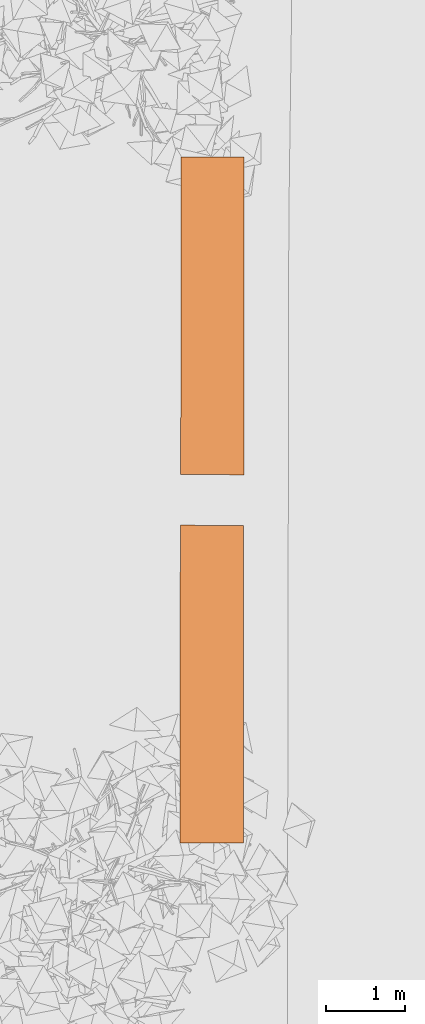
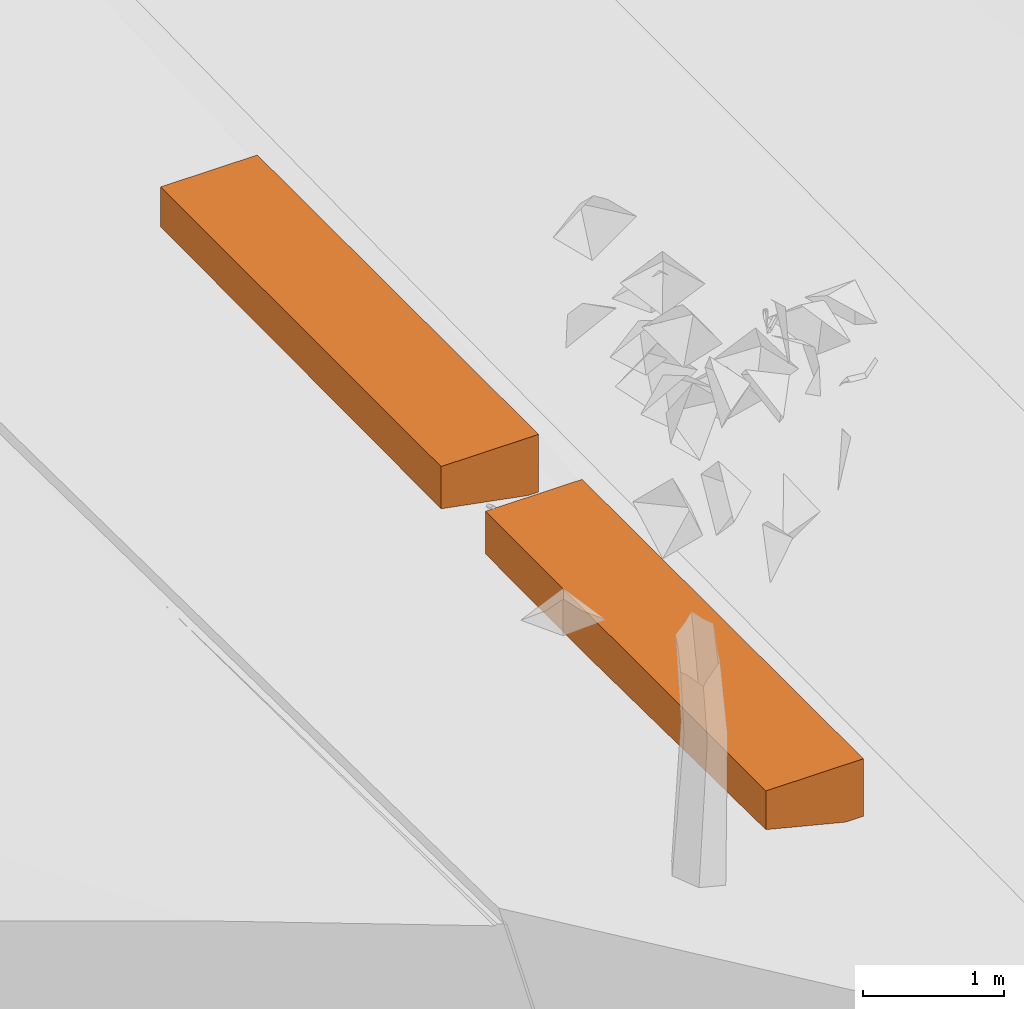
# One storey, part 62 of 69: 2 proxies.
"""IFC2X3 building model written with IfcOpenShell, lengths in millimetres."""

from ifc_helpers import new_model, entity, si_unit, converted_unit, derived_unit, money_unit, direction, frame, origin_with_axes, place, context, subcontext, project, spatial, faceted_brep, material, type_object, element, save


model = new_model("IFC2X3")

# Units and contexts
model_context = context("Model", 3, precision=0.01, world=origin_with_axes(), true_north=direction((0.0, 1.0)))
body_context = subcontext(model_context, "Body", "Model", "MODEL_VIEW")
ifc_project = project(units=[si_unit("LENGTHUNIT", "METRE", prefix="MILLI"), si_unit("AREAUNIT", "SQUARE_METRE"), si_unit("VOLUMEUNIT", "CUBIC_METRE"), converted_unit("PLANEANGLEUNIT", "DEGREE", entity("IfcPlaneAngleMeasure", 0.0174532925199), si_unit("PLANEANGLEUNIT", "RADIAN"), dimensions=[0, 0, 0, 0, 0, 0, 0]), si_unit("SOLIDANGLEUNIT", "STERADIAN"), money_unit("EUR"), converted_unit("TIMEUNIT", "Year", entity("IfcTimeMeasure", 31556926.0), si_unit("TIMEUNIT", "SECOND"), dimensions=[0, 0, 1, 0, 0, 0, 0]), si_unit("MASSUNIT", "GRAM", prefix="KILO"), si_unit("THERMODYNAMICTEMPERATUREUNIT", "DEGREE_CELSIUS"), si_unit("LUMINOUSINTENSITYUNIT", "LUMEN"), si_unit("ENERGYUNIT", "JOULE", prefix="MEGA"), derived_unit("THERMALCONDUCTANCEUNIT", [(si_unit("POWERUNIT", "WATT"), 1), (si_unit("LENGTHUNIT", "METRE"), -1), (si_unit("THERMODYNAMICTEMPERATUREUNIT", "KELVIN"), -1)]), derived_unit("SPECIFICHEATCAPACITYUNIT", [(si_unit("ENERGYUNIT", "JOULE"), 1), (si_unit("MASSUNIT", "GRAM", prefix="KILO"), -1), (si_unit("THERMODYNAMICTEMPERATUREUNIT", "KELVIN"), -1)]), derived_unit("MASSDENSITYUNIT", [(si_unit("MASSUNIT", "GRAM", prefix="KILO"), 1), (si_unit("VOLUMEUNIT", "CUBIC_METRE"), -1)])], contexts=[model_context])

# Site, building, storey
site_placement = place(None, origin_with_axes())
site = spatial("IfcSite", under=ifc_project, at=site_placement, Name="Puškini 31, Narva", CompositionType="ELEMENT")
building_placement = place(site_placement, origin_with_axes())
building = spatial("IfcBuilding", under=site, at=building_placement, Name="Narva Riigigümnaasium", CompositionType="ELEMENT")
storey_placement = place(building_placement, origin_with_axes())
storey = spatial("IfcBuildingStorey", under=building, at=storey_placement, Name="1.korrus 0.00", CompositionType="ELEMENT", Elevation=0.0)

# Proxies
ifc_material = material(Name="Puit - Põrand")
building_element_proxy_type = type_object("IfcBuildingElementProxyType", Name="Puit - Põrand 500", PredefinedType="NOTDEFINED")
proxy_1_placement = place(storey_placement, frame((23048.161602, 241008.899282, -2748.05560688), z_axis=(0.0, 0.0, 1.0), x_axis=(1.0, 0.0, 0.0)))
element("IfcBuildingElementProxy", 1, at=proxy_1_placement, inside=storey, type_object=building_element_proxy_type, material=ifc_material, Name="Pink-2", context=body_context, shape_type="Brep", body=[
    faceted_brep([(793.829033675, -939.871611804, -500.0), (793.829033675, -434.89500589, -497.265314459), (793.829033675, -1.23400232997, -494.459482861), (793.829033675, -1.23400232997, 0.0), (793.829033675, -4001.22924384, 0.0), (793.829033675, -4001.22924384, -500.0), (705.324474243, -4001.09272515, -500.0), (-6.17001402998, -3999.99524164, -366.722727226), (-1.72341688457, -1117.28422402, -351.944393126), (30.5775955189, -0.0475326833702, -351.944393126), (151.574582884, -0.23562175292, -374.609577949), (0.0, 0.0, -346.216590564), (0.0, 0.0, 0.0), (-6.17001402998, -3999.99524164, 0.0)], [[[0, 1, 2, 3, 4, 5]], [[1, 0, 6, 7, 8, 9, 10]], [[10, 2, 1]], [[9, 11, 12, 3, 2, 10]], [[3, 12, 13, 4]], [[7, 6, 5, 4, 13]], [[6, 0, 5]], [[8, 7, 13, 12, 11]], [[11, 9, 8]]]),
])
proxy_2_placement = place(storey_placement, frame((23037.7114595, 236372.084696, -2748.05560688), z_axis=(0.0, 0.0, 1.0), x_axis=(1.0, 0.0, 0.0)))
element("IfcBuildingElementProxy", 2, at=proxy_2_placement, inside=storey, type_object=building_element_proxy_type, material=ifc_material, Name="Pink-2", context=body_context, shape_type="Brep", body=[
    faceted_brep([(650.375563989, -4001.00796621, -500.0), (604.16427808, -3224.68858024, -500.0), (697.363589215, -1.08404739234, -500.0), (793.829033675, -1.23400232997, -500.0), (793.829033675, -4001.22924384, -500.0), (56.1540586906, -4000.09137681, -351.944393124), (-4.59594260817, -2979.53107955, -351.944393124), (-2.11656048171, -1372.15763438, -376.404105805), (0.0, 0.0, -369.369684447), (0.0, 0.0, 0.0), (793.829033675, -1.23400232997, 0.0), (793.829033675, -4001.22924384, 0.0), (-6.17001402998, -3999.99524164, 0.0), (-6.17001402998, -3999.99524164, -336.415792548)], [[[0, 1, 2, 3, 4]], [[1, 0, 5, 6, 7]], [[8, 2, 1, 7]], [[2, 8, 9, 10, 3]], [[11, 4, 3, 10]], [[5, 0, 4, 11, 12, 13]], [[5, 13, 6]], [[6, 13, 12, 9, 8, 7]], [[10, 9, 12, 11]]]),
])

save(model, "model.ifc")
